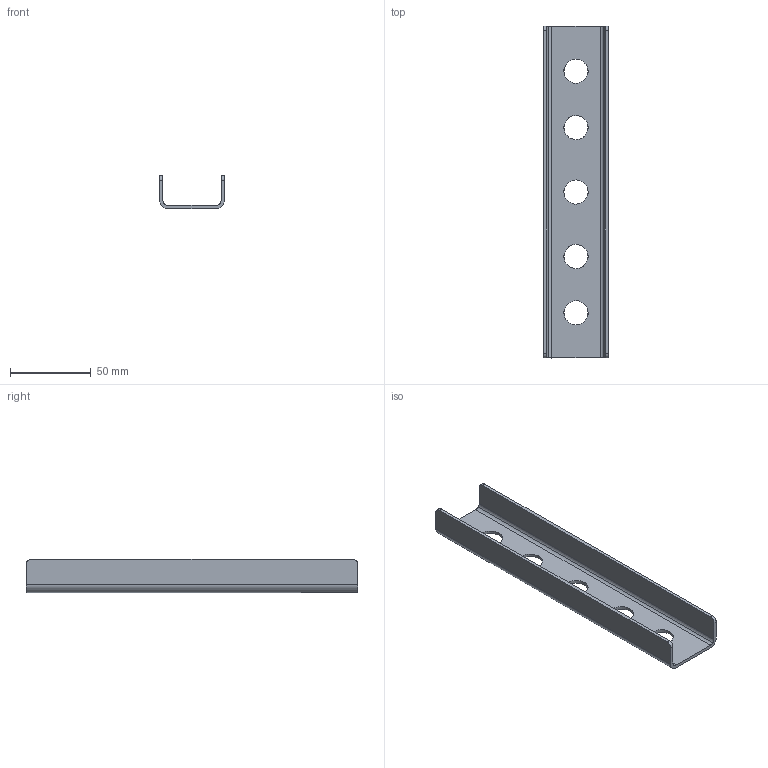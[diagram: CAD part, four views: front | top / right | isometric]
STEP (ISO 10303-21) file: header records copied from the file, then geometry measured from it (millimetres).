
FILE_DESCRIPTION(('CATIA V5 STEP Exchange'),'2;1');
FILE_NAME('D:\杨逍（新）\06-李燕龙\2023.1.9-G3新开件2D图纸-李燕龙\钣金单件图纸\SHT0015323-G3副司机座椅底支架中间连接板\SHT0015323.stp','2023-01-11T06:37:25+00:00',('none'),('none'),'CATIA Version 5 Release 20 GA (IN-10)','CATIA V5 STEP AP214','none');
FILE_SCHEMA(('AUTOMOTIVE_DESIGN { 1 0 10303 214 1 1 1 1 }'));
Length unit declared in the file: millimetre
Products named in the file (1): G3副司机座椅底支架中间连接板
Bounding box: 40 x 206 x 20.5 mm (x, y, z)
Volume: 28526.7 mm3; surface area: 30106 mm2
Topology: 1 solids, 1 shells, 30 faces, 84 edges, 56 vertices
Faces by surface type: cylinder 20, plane 10
Entity records: 1094 total; most frequent: CARTESIAN_POINT 327, ORIENTED_EDGE 168, DIRECTION 118, EDGE_CURVE 84, VERTEX_POINT 56, AXIS2_PLACEMENT_3D 52, VECTOR 43, LINE 43
